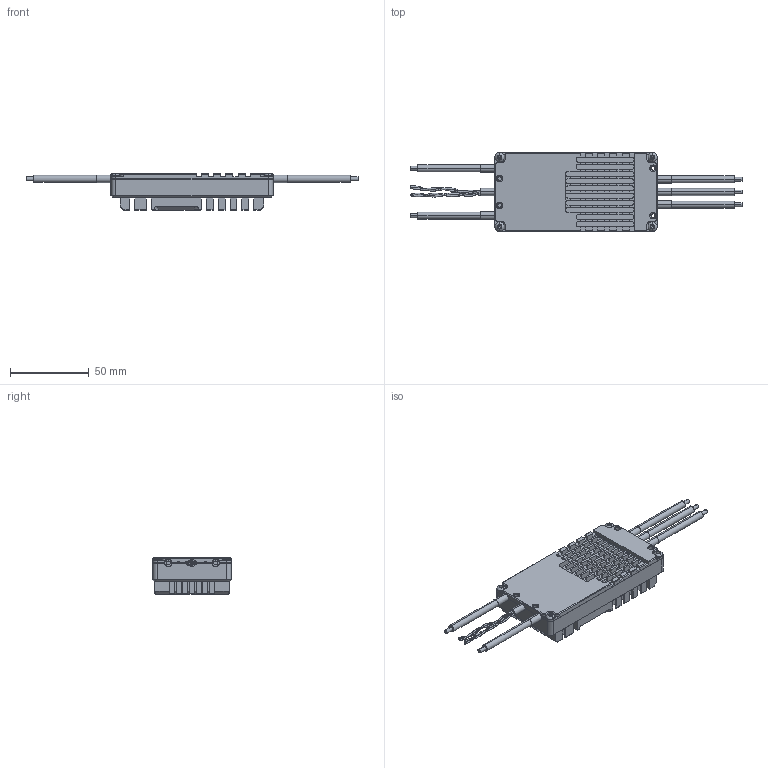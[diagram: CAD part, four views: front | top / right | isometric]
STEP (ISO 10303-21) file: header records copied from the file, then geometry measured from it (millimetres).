
FILE_DESCRIPTION (( 'STEP AP203' ), '1' );
FILE_NAME ('X6.3 D-321 _Q pro Customer.STEP', '2026-02-05T11:48:58', ( '' ), ( '' ), 'RDSTEP 2.0', 'Reflex Drive 2026', '' );
FILE_SCHEMA (( 'CONFIG_CONTROL_DESIGN' ));
Products named in the file (1): X6.3 D-321 _Q pro Customer
Bounding box: 211.21 x 50.15 x 23.4 mm (x, y, z)
Volume: 85704.6 mm3; surface area: 45230.8 mm2
Topology: 7 solids, 26 shells, 1500 faces, 4118 edges, 2687 vertices
Faces by surface type: plane 1006, cylinder 414, cone 40, torus 16, bspline 16, sphere 8
Entity records: 51188 total; most frequent: CARTESIAN_POINT 12466, ORIENTED_EDGE 8220, DIRECTION 7874, EDGE_CURVE 4110, LINE 3102, VECTOR 3102, VERTEX_POINT 2687, AXIS2_PLACEMENT_3D 2386
